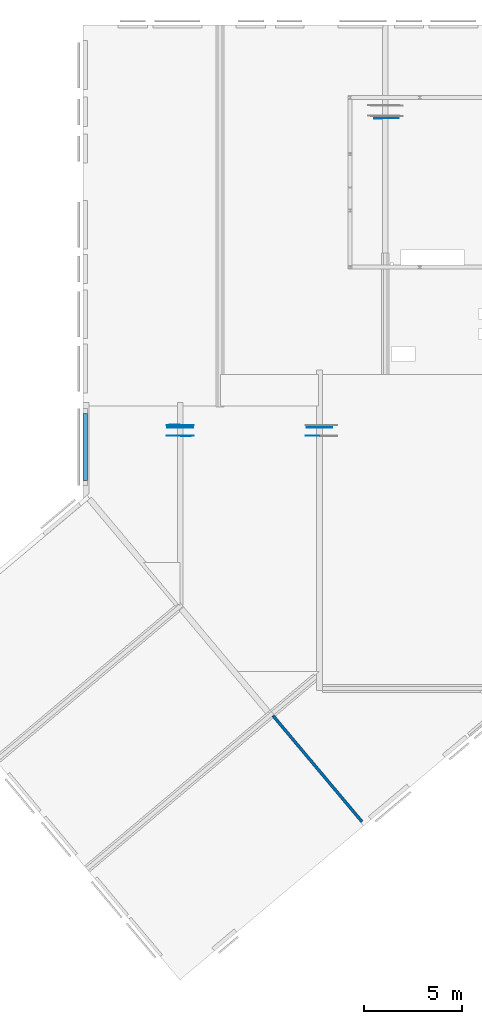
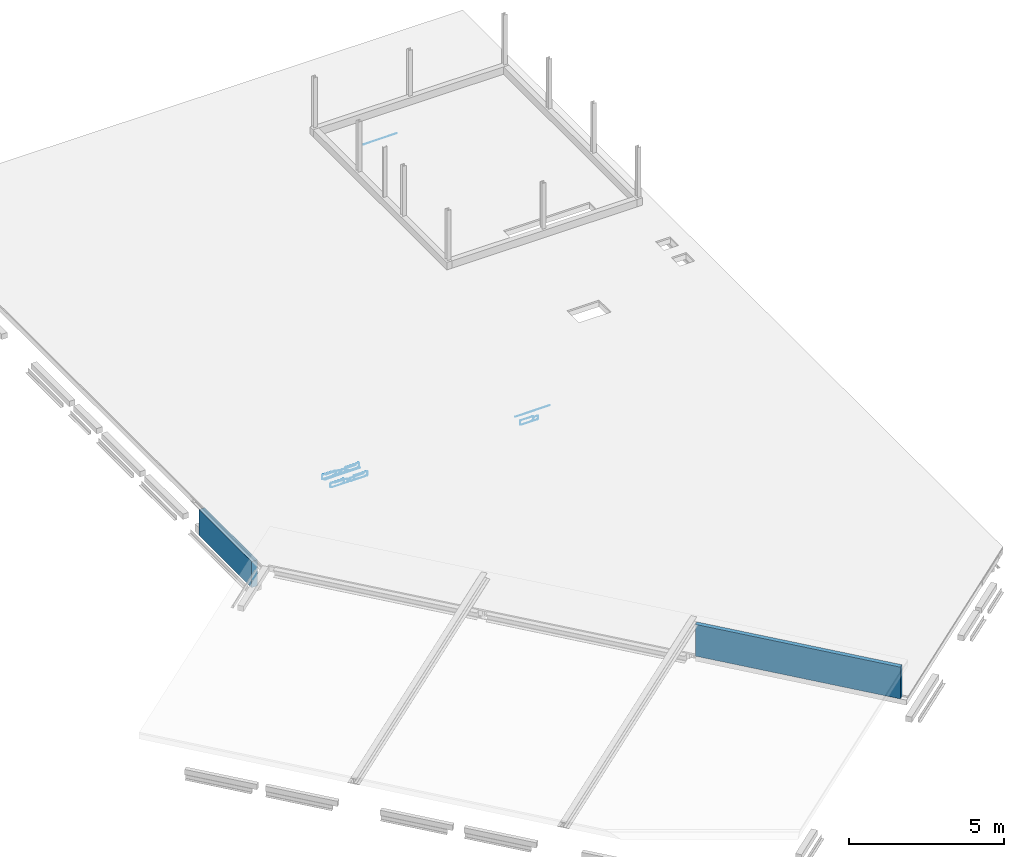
# One storey, part 7 of 9: 8 reinforcing bars, 2 walls.
"""IFC2X3 building model written with IfcOpenShell, lengths in millimetres."""

from ifc_helpers import new_model, entity, si_unit, converted_unit, derived_unit, direction, frame, frame_2d, origin, place, context, subcontext, project, spatial, rectangle, extrude, material, layer, layer_set, layer_usage, type_object, element, save


model = new_model("IFC2X3")

# Units and contexts
model_context = context("Model", 3, precision=0.01, world=origin(), true_north=direction((6.12303176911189e-17, 1.0)))
body_context = subcontext(model_context, "Body", "Model", "MODEL_VIEW")
ifc_project = project(units=[si_unit("LENGTHUNIT", "METRE", prefix="MILLI"), si_unit("AREAUNIT", "SQUARE_METRE"), si_unit("VOLUMEUNIT", "CUBIC_METRE"), converted_unit("PLANEANGLEUNIT", "DEGREE", entity("IfcRatioMeasure", 0.0174532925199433), si_unit("PLANEANGLEUNIT", "RADIAN"), dimensions=[0, 0, 0, 0, 0, 0, 0]), si_unit("MASSUNIT", "GRAM", prefix="KILO"), derived_unit("MASSDENSITYUNIT", [(si_unit("MASSUNIT", "GRAM", prefix="KILO"), 1), (si_unit("LENGTHUNIT", "METRE"), -3)]), derived_unit("MOMENTOFINERTIAUNIT", [(si_unit("LENGTHUNIT", "METRE"), 4)]), si_unit("TIMEUNIT", "SECOND"), si_unit("FREQUENCYUNIT", "HERTZ"), si_unit("THERMODYNAMICTEMPERATUREUNIT", "DEGREE_CELSIUS"), derived_unit("THERMALTRANSMITTANCEUNIT", [(si_unit("MASSUNIT", "GRAM", prefix="KILO"), 1), (si_unit("THERMODYNAMICTEMPERATUREUNIT", "KELVIN"), -1), (si_unit("TIMEUNIT", "SECOND"), -3)]), derived_unit("VOLUMETRICFLOWRATEUNIT", [(si_unit("LENGTHUNIT", "METRE"), 3), (si_unit("TIMEUNIT", "SECOND"), -1)]), si_unit("ELECTRICCURRENTUNIT", "AMPERE"), si_unit("ELECTRICVOLTAGEUNIT", "VOLT"), si_unit("POWERUNIT", "WATT"), si_unit("FORCEUNIT", "NEWTON", prefix="KILO"), si_unit("ILLUMINANCEUNIT", "LUX"), si_unit("LUMINOUSFLUXUNIT", "LUMEN"), si_unit("LUMINOUSINTENSITYUNIT", "CANDELA"), derived_unit("USERDEFINED", [(si_unit("MASSUNIT", "GRAM", prefix="KILO"), -1), (si_unit("LENGTHUNIT", "METRE"), -2), (si_unit("TIMEUNIT", "SECOND"), 3), (si_unit("LUMINOUSFLUXUNIT", "LUMEN"), 1)]), derived_unit("LINEARVELOCITYUNIT", [(si_unit("LENGTHUNIT", "METRE"), 1), (si_unit("TIMEUNIT", "SECOND"), -1)]), si_unit("PRESSUREUNIT", "PASCAL"), derived_unit("USERDEFINED", [(si_unit("LENGTHUNIT", "METRE"), -2), (si_unit("MASSUNIT", "GRAM", prefix="KILO"), 1), (si_unit("TIMEUNIT", "SECOND"), -2)]), derived_unit("LINEARFORCEUNIT", [(si_unit("MASSUNIT", "GRAM", prefix="KILO"), 1), (si_unit("LENGTHUNIT", "METRE"), 1), (si_unit("TIMEUNIT", "SECOND"), -2), (si_unit("LENGTHUNIT", "METRE"), -1)]), derived_unit("PLANARFORCEUNIT", [(si_unit("MASSUNIT", "GRAM", prefix="KILO"), 1), (si_unit("LENGTHUNIT", "METRE"), 1), (si_unit("TIMEUNIT", "SECOND"), -2), (si_unit("LENGTHUNIT", "METRE"), -2)])], contexts=[model_context])

# Site, building, storey
site_placement = place(None, origin())
site = spatial("IfcSite", under=ifc_project, at=site_placement, Name="Default", CompositionType="ELEMENT")
building_placement = place(site_placement, origin())
building = spatial("IfcBuilding", under=site, at=building_placement, CompositionType="ELEMENT")
storey_placement = place(building_placement, frame((0.0, 0.0, 7000.0)))
storey = spatial("IfcBuildingStorey", under=building, at=storey_placement, Name="02 tweede verdieping", CompositionType="ELEMENT", Elevation=7000.00000000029)

# Walls
ifc_material = material(Name="f1_kalkzandsteen")
ifc_layer_1 = layer(ifc_material, 214.0)
ifc_layer_set_1 = layer_set([ifc_layer_1], Name="Basic Wall:BERSnl_22_WA_kalkzandsteen214")
ifc_layer_usage_1 = layer_usage(ifc_layer_set_1, "AXIS2", "NEGATIVE", 107.0)
wall_type_1 = type_object("IfcWallType", Name="Basic Wall:BERSnl_22_WA_kalkzandsteen214", PredefinedType="STANDARD", material=ifc_layer_set_1)
wall_1_placement = place(storey_placement, frame((13702.4349765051, 12331.2441702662, -190.0), z_axis=(0.0, 0.0, 1.0), x_axis=(0.0, 1.0, 0.0)))
element("IfcWallStandardCase", 1, at=wall_1_placement, inside=storey, type_object=wall_type_1, material=ifc_layer_usage_1, Name="Basic Wall:BERSnl_22_WA_kalkzandsteen214", ObjectType="Basic Wall:BERSnl_22_WA_kalkzandsteen214", context=body_context, shape_type="SweptSolid", body=[
    extrude(rectangle(XDim=3400.0, YDim=213.999999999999, at=frame_2d((1700.0, 0.0), x_axis=(-1.0, 0.0))), origin(), (0.0, 0.0, 1.0), 1030.0),
])
ifc_layer_2 = layer(ifc_material, 150.0)
ifc_layer_set_2 = layer_set([ifc_layer_2], Name="Basic Wall:BERSnl_22_WA_kalkzandsteen150")
ifc_layer_usage_2 = layer_usage(ifc_layer_set_2, "AXIS2", "NEGATIVE", 75.0)
wall_type_2 = type_object("IfcWallType", Name="Basic Wall:BERSnl_22_WA_kalkzandsteen150", PredefinedType="STANDARD", material=ifc_layer_set_2)
wall_2_placement = place(storey_placement, frame((27784.5924056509, -5031.57264052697, 1040.0), z_axis=(0.0, 0.0, 1.0), x_axis=(-0.642787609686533, 0.766044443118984, 0.0)))
element("IfcWallStandardCase", 2, at=wall_2_placement, inside=storey, type_object=wall_type_2, material=ifc_layer_usage_2, Name="Basic Wall:BERSnl_22_WA_kalkzandsteen150", ObjectType="Basic Wall:BERSnl_22_WA_kalkzandsteen150", context=body_context, shape_type="SweptSolid", body=[
    extrude(rectangle(XDim=7045.01706476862, YDim=150.000000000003, at=frame_2d((3522.50853238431, 3.48165940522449e-13), x_axis=(-1.0, 0.0))), origin(), (0.0, 0.0, 1.0), 1250.00000000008),
])

# Reinforcing bars
reinforcing_bar_1_placement = place(storey_placement, origin())
element("IfcReinforcingBar", 3, at=reinforcing_bar_1_placement, inside=storey, Name="Rebar Bar:SR_ø10 1 : Shape 00 3: 1", ObjectType="Rebar Bar:SR_ø10 1", BarLength=1232.16967239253, BarRole="NOTDEFINED", CrossSectionArea=7.85398163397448e-05, NominalDiameter=10.0, context=body_context, shape_type="AdvancedSweptSolid", body=[
    entity("IfcSweptDiskSolid", entity("IfcCompositeCurve", [entity("IfcCompositeCurveSegment", "CONTINUOUS", True, entity("IfcPolyline", [entity("IfcCartesianPoint", [28411.793874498, 30747.2058326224, 933.499999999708]), entity("IfcCartesianPoint", [29643.9361749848, 30755.4188049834, 933.499999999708])]))], False), 5.0, None, 0.0, 1.0),
])
reinforcing_bar_2_placement = place(storey_placement, origin())
element("IfcReinforcingBar", 4, at=reinforcing_bar_2_placement, inside=storey, Name="Rebar Bar:SR_ø10 1 : Shape 00 3: 1", ObjectType="Rebar Bar:SR_ø10 1", BarLength=1293.86234116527, BarRole="NOTDEFINED", CrossSectionArea=7.85398163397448e-05, NominalDiameter=10.0, context=body_context, shape_type="AdvancedSweptSolid", body=[
    entity("IfcSweptDiskSolid", entity("IfcCompositeCurve", [entity("IfcCompositeCurveSegment", "CONTINUOUS", True, entity("IfcPolyline", [entity("IfcCartesianPoint", [24973.6296978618, 15019.6761004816, 933.499999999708]), entity("IfcCartesianPoint", [26267.4632966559, 15028.3002825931, 933.499999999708])]))], False), 5.0, None, 0.0, 1.0),
])
reinforcing_bar_3_placement = place(storey_placement, origin())
ifc_direction_1 = entity("IfcDirection", [0.0, -1.0, 0.0])
ifc_direction_2 = entity("IfcDirection", [1.0, 0.0, 0.0])
ifc_direction_3 = entity("IfcDirection", [0.0, 0.0, 1.0])
element("IfcReinforcingBar", 5, at=reinforcing_bar_3_placement, inside=storey, Name="Rebar Bar:SR_ø8 : Shape Rebar Shape 5: 2", ObjectType="Rebar Bar:SR_ø8", BarLength=1799.94583112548, BarRole="NOTDEFINED", CrossSectionArea=5.02654824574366e-05, NominalDiameter=8.0, context=body_context, shape_type="AdvancedSweptSolid", body=[
    entity("IfcSweptDiskSolid", entity("IfcCompositeCurve", [entity("IfcCompositeCurveSegment", "CONTINUOUS", True, entity("IfcPolyline", [entity("IfcCartesianPoint", [25321.5988803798, 14602.8628808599, 889.777519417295]), entity("IfcCartesianPoint", [25373.5988803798, 14602.8628808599, 889.777519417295])])), entity("IfcCompositeCurveSegment", "CONTINUOUS", True, entity("IfcTrimmedCurve", entity("IfcCircle", entity("IfcAxis2Placement3D", entity("IfcCartesianPoint", [25373.5988803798, 14602.8628808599, 933.777519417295]), ifc_direction_1, ifc_direction_2), 44.0), [entity("IfcParameterValue", 270.0)], [entity("IfcParameterValue", 360.0)], True, "PARAMETER")), entity("IfcCompositeCurveSegment", "CONTINUOUS", True, entity("IfcPolyline", [entity("IfcCartesianPoint", [25417.5988803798, 14602.8628808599, 933.777519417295]), entity("IfcCartesianPoint", [25417.5988803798, 14602.8628808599, 1013.12322859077])])), entity("IfcCompositeCurveSegment", "CONTINUOUS", True, entity("IfcTrimmedCurve", entity("IfcCircle", entity("IfcAxis2Placement3D", entity("IfcCartesianPoint", [25373.5988803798, 14602.8628808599, 1013.12322859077]), ifc_direction_1, ifc_direction_3), 44.0), [entity("IfcParameterValue", 270.0)], [entity("IfcParameterValue", 360.0)], True, "PARAMETER")), entity("IfcCompositeCurveSegment", "CONTINUOUS", True, entity("IfcPolyline", [entity("IfcCartesianPoint", [25373.5988803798, 14602.8628808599, 1057.12322859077]), entity("IfcCartesianPoint", [24964.7095946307, 14602.8628808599, 1057.12322859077])])), entity("IfcCompositeCurveSegment", "CONTINUOUS", True, entity("IfcTrimmedCurve", entity("IfcCircle", entity("IfcAxis2Placement3D", entity("IfcCartesianPoint", [24964.7095946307, 14602.8628808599, 1013.12322859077]), ifc_direction_1, entity("IfcDirection", [-1.0, 0.0, 0.0])), 44.0), [entity("IfcParameterValue", 270.0)], [entity("IfcParameterValue", 360.0)], True, "PARAMETER")), entity("IfcCompositeCurveSegment", "CONTINUOUS", True, entity("IfcPolyline", [entity("IfcCartesianPoint", [24920.7095946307, 14602.8628808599, 1013.12322859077]), entity("IfcCartesianPoint", [24920.7095946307, 14602.8628808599, 922.755201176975])])), entity("IfcCompositeCurveSegment", "CONTINUOUS", True, entity("IfcTrimmedCurve", entity("IfcCircle", entity("IfcAxis2Placement3D", entity("IfcCartesianPoint", [24964.7095946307, 14602.8628808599, 922.755201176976]), ifc_direction_1, entity("IfcDirection", [0.0, 0.0, -1.0])), 44.0), [entity("IfcParameterValue", 270.0)], [entity("IfcParameterValue", 360.0)], True, "PARAMETER")), entity("IfcCompositeCurveSegment", "CONTINUOUS", True, entity("IfcPolyline", [entity("IfcCartesianPoint", [24964.7095946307, 14602.8628808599, 878.755201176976]), entity("IfcCartesianPoint", [25551.3187459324, 14602.8628808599, 878.755201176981])])), entity("IfcCompositeCurveSegment", "CONTINUOUS", True, entity("IfcTrimmedCurve", entity("IfcCircle", entity("IfcAxis2Placement3D", entity("IfcCartesianPoint", [25551.3187459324, 14602.8628808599, 922.755201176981]), ifc_direction_1, ifc_direction_2), 44.0), [entity("IfcParameterValue", 270.0)], [entity("IfcParameterValue", 360.0)], True, "PARAMETER")), entity("IfcCompositeCurveSegment", "CONTINUOUS", True, entity("IfcPolyline", [entity("IfcCartesianPoint", [25595.3187459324, 14602.8628808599, 922.755201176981]), entity("IfcCartesianPoint", [25595.3187459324, 14602.8628808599, 977.148214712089])])), entity("IfcCompositeCurveSegment", "CONTINUOUS", True, entity("IfcTrimmedCurve", entity("IfcCircle", entity("IfcAxis2Placement3D", entity("IfcCartesianPoint", [25551.3187459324, 14602.8628808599, 977.148214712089]), ifc_direction_1, ifc_direction_3), 44.0), [entity("IfcParameterValue", 270.0)], [entity("IfcParameterValue", 360.0)], True, "PARAMETER")), entity("IfcCompositeCurveSegment", "CONTINUOUS", True, entity("IfcPolyline", [entity("IfcCartesianPoint", [25551.3187459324, 14602.8628808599, 1021.14821471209]), entity("IfcCartesianPoint", [25437.6683322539, 14602.8628808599, 1021.14821471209])]))], False), 4.0, None, 0.0, 547.0),
])
reinforcing_bar_4_placement = place(storey_placement, origin())
element("IfcReinforcingBar", 6, at=reinforcing_bar_4_placement, inside=storey, Name="Rebar Bar:SR_ø10 1 : Shape 00 3: 1", ObjectType="Rebar Bar:SR_ø10 1", BarLength=1323.13927925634, BarRole="NOTDEFINED", CrossSectionArea=7.85398163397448e-05, NominalDiameter=10.0, context=body_context, shape_type="AdvancedSweptSolid", body=[
    entity("IfcSweptDiskSolid", entity("IfcCompositeCurve", [entity("IfcCompositeCurveSegment", "CONTINUOUS", True, entity("IfcPolyline", [entity("IfcCartesianPoint", [17880.6435721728, 15019.5607523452, 939.499999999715]), entity("IfcCartesianPoint", [19203.7534586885, 15028.3800785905, 939.499999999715])]))], False), 5.0, None, 0.0, 1.0),
])
reinforcing_bar_5_placement = place(storey_placement, origin())
ifc_direction_4 = entity("IfcDirection", [0.0, 1.0, 0.0])
ifc_direction_5 = entity("IfcDirection", [-1.0, 0.0, 0.0])
element("IfcReinforcingBar", 7, at=reinforcing_bar_5_placement, inside=storey, Name="Rebar Bar:SR_ø8 : Shape Rebar Shape 5: 1", ObjectType="Rebar Bar:SR_ø8", BarLength=2145.07097404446, BarRole="NOTDEFINED", CrossSectionArea=5.02654824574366e-05, NominalDiameter=8.0, context=body_context, shape_type="AdvancedSweptSolid", body=[
    entity("IfcSweptDiskSolid", entity("IfcCompositeCurve", [entity("IfcCompositeCurveSegment", "CONTINUOUS", True, entity("IfcPolyline", [entity("IfcCartesianPoint", [18812.0051836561, 15141.6014686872, 901.203958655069]), entity("IfcCartesianPoint", [18760.0051836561, 15141.6014686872, 901.203958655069])])), entity("IfcCompositeCurveSegment", "CONTINUOUS", True, entity("IfcTrimmedCurve", entity("IfcCircle", entity("IfcAxis2Placement3D", entity("IfcCartesianPoint", [18760.0051836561, 15141.6014686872, 945.203958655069]), ifc_direction_4, ifc_direction_5), 44.0), [entity("IfcParameterValue", 270.0)], [entity("IfcParameterValue", 360.0)], True, "PARAMETER")), entity("IfcCompositeCurveSegment", "CONTINUOUS", True, entity("IfcPolyline", [entity("IfcCartesianPoint", [18716.0051836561, 15141.6014686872, 945.203958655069]), entity("IfcCartesianPoint", [18716.0051836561, 15141.6014686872, 1018.53360569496])])), entity("IfcCompositeCurveSegment", "CONTINUOUS", True, entity("IfcTrimmedCurve", entity("IfcCircle", entity("IfcAxis2Placement3D", entity("IfcCartesianPoint", [18760.0051836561, 15141.6014686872, 1018.53360569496]), ifc_direction_4, entity("IfcDirection", [0.0, 0.0, 1.0])), 44.0), [entity("IfcParameterValue", 270.0)], [entity("IfcParameterValue", 360.0)], True, "PARAMETER")), entity("IfcCompositeCurveSegment", "CONTINUOUS", True, entity("IfcPolyline", [entity("IfcCartesianPoint", [18760.0051836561, 15141.6014686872, 1062.53360569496]), entity("IfcCartesianPoint", [19186.0847129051, 15141.6014686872, 1062.53360569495])])), entity("IfcCompositeCurveSegment", "CONTINUOUS", True, entity("IfcTrimmedCurve", entity("IfcCircle", entity("IfcAxis2Placement3D", entity("IfcCartesianPoint", [19186.0847129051, 15141.6014686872, 1018.53360569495]), ifc_direction_4, entity("IfcDirection", [1.0, 0.0, 0.0])), 44.0), [entity("IfcParameterValue", 270.0)], [entity("IfcParameterValue", 360.0)], True, "PARAMETER")), entity("IfcCompositeCurveSegment", "CONTINUOUS", True, entity("IfcPolyline", [entity("IfcCartesianPoint", [19230.0847129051, 15141.6014686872, 1018.53360569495]), entity("IfcCartesianPoint", [19230.0847129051, 15141.6014686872, 931.735565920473])])), entity("IfcCompositeCurveSegment", "CONTINUOUS", True, entity("IfcTrimmedCurve", entity("IfcCircle", entity("IfcAxis2Placement3D", entity("IfcCartesianPoint", [19186.0847129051, 15141.6014686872, 931.735565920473]), ifc_direction_4, entity("IfcDirection", [0.0, 0.0, -1.0])), 44.0), [entity("IfcParameterValue", 270.0)], [entity("IfcParameterValue", 360.0)], True, "PARAMETER")), entity("IfcCompositeCurveSegment", "CONTINUOUS", True, entity("IfcPolyline", [entity("IfcCartesianPoint", [19186.0847129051, 15141.6014686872, 887.735565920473]), entity("IfcCartesianPoint", [18612.2446999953, 15141.6014686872, 887.735565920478])])), entity("IfcCompositeCurveSegment", "CONTINUOUS", True, entity("IfcTrimmedCurve", entity("IfcCircle", entity("IfcAxis2Placement3D", entity("IfcCartesianPoint", [18612.2446999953, 15138.978198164, 931.657296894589]), entity("IfcDirection", [0.0, 0.998221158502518, 0.0596197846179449]), ifc_direction_5), 44.0), [entity("IfcParameterValue", 270.0)], [entity("IfcParameterValue", 360.0)], True, "PARAMETER")), entity("IfcCompositeCurveSegment", "CONTINUOUS", True, entity("IfcPolyline", [entity("IfcCartesianPoint", [18568.2446999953, 15138.978198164, 931.657296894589]), entity("IfcCartesianPoint", [18568.2446999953, 15136.2247392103, 977.758788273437])])), entity("IfcCompositeCurveSegment", "CONTINUOUS", True, entity("IfcTrimmedCurve", entity("IfcCircle", entity("IfcAxis2Placement3D", entity("IfcCartesianPoint", [18612.2446999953, 15136.2247392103, 977.758788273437]), entity("IfcDirection", [0.0, 0.998221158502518, 0.0596197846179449]), entity("IfcDirection", [0.0, -0.0596197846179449, 0.998221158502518])), 44.0), [entity("IfcParameterValue", 270.0)], [entity("IfcParameterValue", 360.0)], True, "PARAMETER")), entity("IfcCompositeCurveSegment", "CONTINUOUS", True, entity("IfcPolyline", [entity("IfcCartesianPoint", [18612.2446999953, 15133.6014686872, 1021.68051924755]), entity("IfcCartesianPoint", [19084.6332614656, 15133.6014686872, 1021.68051924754])]))], False), 4.0, None, 0.0, 547.0),
])
reinforcing_bar_6_placement = place(storey_placement, origin())
ifc_direction_6 = entity("IfcDirection", [0.0, 1.0, 0.0])
ifc_direction_7 = entity("IfcDirection", [-1.0, 0.0, 0.0])
element("IfcReinforcingBar", 8, at=reinforcing_bar_6_placement, inside=storey, Name="Rebar Bar:SR_ø8 : Shape Rebar Shape 5: 2", ObjectType="Rebar Bar:SR_ø8", BarLength=2145.07097404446, BarRole="NOTDEFINED", CrossSectionArea=5.02654824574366e-05, NominalDiameter=8.0, context=body_context, shape_type="AdvancedSweptSolid", body=[
    entity("IfcSweptDiskSolid", entity("IfcCompositeCurve", [entity("IfcCompositeCurveSegment", "CONTINUOUS", True, entity("IfcPolyline", [entity("IfcCartesianPoint", [18812.0051836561, 14602.8628808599, 901.203958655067]), entity("IfcCartesianPoint", [18760.0051836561, 14602.8628808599, 901.203958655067])])), entity("IfcCompositeCurveSegment", "CONTINUOUS", True, entity("IfcTrimmedCurve", entity("IfcCircle", entity("IfcAxis2Placement3D", entity("IfcCartesianPoint", [18760.0051836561, 14602.8628808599, 945.203958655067]), ifc_direction_6, ifc_direction_7), 44.0), [entity("IfcParameterValue", 270.0)], [entity("IfcParameterValue", 360.0)], True, "PARAMETER")), entity("IfcCompositeCurveSegment", "CONTINUOUS", True, entity("IfcPolyline", [entity("IfcCartesianPoint", [18716.0051836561, 14602.8628808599, 945.203958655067]), entity("IfcCartesianPoint", [18716.0051836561, 14602.8628808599, 1018.53360569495])])), entity("IfcCompositeCurveSegment", "CONTINUOUS", True, entity("IfcTrimmedCurve", entity("IfcCircle", entity("IfcAxis2Placement3D", entity("IfcCartesianPoint", [18760.0051836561, 14602.8628808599, 1018.53360569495]), ifc_direction_6, entity("IfcDirection", [0.0, 0.0, 1.0])), 44.0), [entity("IfcParameterValue", 270.0)], [entity("IfcParameterValue", 360.0)], True, "PARAMETER")), entity("IfcCompositeCurveSegment", "CONTINUOUS", True, entity("IfcPolyline", [entity("IfcCartesianPoint", [18760.0051836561, 14602.8628808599, 1062.53360569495]), entity("IfcCartesianPoint", [19186.0847129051, 14602.8628808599, 1062.53360569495])])), entity("IfcCompositeCurveSegment", "CONTINUOUS", True, entity("IfcTrimmedCurve", entity("IfcCircle", entity("IfcAxis2Placement3D", entity("IfcCartesianPoint", [19186.0847129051, 14602.8628808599, 1018.53360569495]), ifc_direction_6, entity("IfcDirection", [1.0, 0.0, 0.0])), 44.0), [entity("IfcParameterValue", 270.0)], [entity("IfcParameterValue", 360.0)], True, "PARAMETER")), entity("IfcCompositeCurveSegment", "CONTINUOUS", True, entity("IfcPolyline", [entity("IfcCartesianPoint", [19230.0847129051, 14602.8628808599, 1018.53360569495]), entity("IfcCartesianPoint", [19230.0847129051, 14602.8628808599, 931.73556592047])])), entity("IfcCompositeCurveSegment", "CONTINUOUS", True, entity("IfcTrimmedCurve", entity("IfcCircle", entity("IfcAxis2Placement3D", entity("IfcCartesianPoint", [19186.0847129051, 14602.8628808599, 931.73556592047]), ifc_direction_6, entity("IfcDirection", [0.0, 0.0, -1.0])), 44.0), [entity("IfcParameterValue", 270.0)], [entity("IfcParameterValue", 360.0)], True, "PARAMETER")), entity("IfcCompositeCurveSegment", "CONTINUOUS", True, entity("IfcPolyline", [entity("IfcCartesianPoint", [19186.0847129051, 14602.8628808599, 887.735565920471]), entity("IfcCartesianPoint", [18612.2446999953, 14602.8628808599, 887.735565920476])])), entity("IfcCompositeCurveSegment", "CONTINUOUS", True, entity("IfcTrimmedCurve", entity("IfcCircle", entity("IfcAxis2Placement3D", entity("IfcCartesianPoint", [18612.2446999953, 14600.2396103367, 931.657296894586]), entity("IfcDirection", [0.0, 0.998221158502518, 0.0596197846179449]), ifc_direction_7), 44.0), [entity("IfcParameterValue", 270.0)], [entity("IfcParameterValue", 360.0)], True, "PARAMETER")), entity("IfcCompositeCurveSegment", "CONTINUOUS", True, entity("IfcPolyline", [entity("IfcCartesianPoint", [18568.2446999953, 14600.2396103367, 931.657296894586]), entity("IfcCartesianPoint", [18568.2446999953, 14597.4861513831, 977.758788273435])])), entity("IfcCompositeCurveSegment", "CONTINUOUS", True, entity("IfcTrimmedCurve", entity("IfcCircle", entity("IfcAxis2Placement3D", entity("IfcCartesianPoint", [18612.2446999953, 14597.4861513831, 977.758788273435]), entity("IfcDirection", [0.0, 0.998221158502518, 0.0596197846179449]), entity("IfcDirection", [0.0, -0.0596197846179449, 0.998221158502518])), 44.0), [entity("IfcParameterValue", 270.0)], [entity("IfcParameterValue", 360.0)], True, "PARAMETER")), entity("IfcCompositeCurveSegment", "CONTINUOUS", True, entity("IfcPolyline", [entity("IfcCartesianPoint", [18612.2446999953, 14594.8628808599, 1021.68051924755]), entity("IfcCartesianPoint", [19084.6332614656, 14594.8628808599, 1021.68051924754])]))], False), 4.0, None, 0.0, 547.0),
])
reinforcing_bar_7_placement = place(storey_placement, origin())
ifc_direction_8 = entity("IfcDirection", [0.0, -1.0, 0.0])
ifc_direction_9 = entity("IfcDirection", [1.0, 0.0, 0.0])
element("IfcReinforcingBar", 9, at=reinforcing_bar_7_placement, inside=storey, Name="Rebar Bar:SR_ø8 : Shape Rebar Shape 5: 1", ObjectType="Rebar Bar:SR_ø8", BarLength=2145.07097404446, BarRole="NOTDEFINED", CrossSectionArea=5.02654824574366e-05, NominalDiameter=8.0, context=body_context, shape_type="AdvancedSweptSolid", body=[
    entity("IfcSweptDiskSolid", entity("IfcCompositeCurve", [entity("IfcCompositeCurveSegment", "CONTINUOUS", True, entity("IfcPolyline", [entity("IfcCartesianPoint", [18267.502476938, 15141.6014686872, 901.20395865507]), entity("IfcCartesianPoint", [18319.502476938, 15141.6014686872, 901.20395865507])])), entity("IfcCompositeCurveSegment", "CONTINUOUS", True, entity("IfcTrimmedCurve", entity("IfcCircle", entity("IfcAxis2Placement3D", entity("IfcCartesianPoint", [18319.502476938, 15141.6014686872, 945.20395865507]), ifc_direction_8, ifc_direction_9), 44.0), [entity("IfcParameterValue", 270.0)], [entity("IfcParameterValue", 360.0)], True, "PARAMETER")), entity("IfcCompositeCurveSegment", "CONTINUOUS", True, entity("IfcPolyline", [entity("IfcCartesianPoint", [18363.502476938, 15141.6014686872, 945.20395865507]), entity("IfcCartesianPoint", [18363.502476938, 15141.6014686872, 1018.53360569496])])), entity("IfcCompositeCurveSegment", "CONTINUOUS", True, entity("IfcTrimmedCurve", entity("IfcCircle", entity("IfcAxis2Placement3D", entity("IfcCartesianPoint", [18319.502476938, 15141.6014686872, 1018.53360569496]), ifc_direction_8, entity("IfcDirection", [0.0, 0.0, 1.0])), 44.0), [entity("IfcParameterValue", 270.0)], [entity("IfcParameterValue", 360.0)], True, "PARAMETER")), entity("IfcCompositeCurveSegment", "CONTINUOUS", True, entity("IfcPolyline", [entity("IfcCartesianPoint", [18319.502476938, 15141.6014686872, 1062.53360569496]), entity("IfcCartesianPoint", [17893.4229476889, 15141.6014686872, 1062.53360569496])])), entity("IfcCompositeCurveSegment", "CONTINUOUS", True, entity("IfcTrimmedCurve", entity("IfcCircle", entity("IfcAxis2Placement3D", entity("IfcCartesianPoint", [17893.4229476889, 15141.6014686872, 1018.53360569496]), ifc_direction_8, entity("IfcDirection", [-1.0, 0.0, 0.0])), 44.0), [entity("IfcParameterValue", 270.0)], [entity("IfcParameterValue", 360.0)], True, "PARAMETER")), entity("IfcCompositeCurveSegment", "CONTINUOUS", True, entity("IfcPolyline", [entity("IfcCartesianPoint", [17849.4229476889, 15141.6014686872, 1018.53360569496]), entity("IfcCartesianPoint", [17849.4229476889, 15141.6014686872, 931.735565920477])])), entity("IfcCompositeCurveSegment", "CONTINUOUS", True, entity("IfcTrimmedCurve", entity("IfcCircle", entity("IfcAxis2Placement3D", entity("IfcCartesianPoint", [17893.4229476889, 15141.6014686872, 931.735565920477]), ifc_direction_8, entity("IfcDirection", [0.0, 0.0, -1.0])), 44.0), [entity("IfcParameterValue", 270.0)], [entity("IfcParameterValue", 360.0)], True, "PARAMETER")), entity("IfcCompositeCurveSegment", "CONTINUOUS", True, entity("IfcPolyline", [entity("IfcCartesianPoint", [17893.4229476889, 15141.6014686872, 887.735565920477]), entity("IfcCartesianPoint", [18467.2629605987, 15141.6014686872, 887.735565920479])])), entity("IfcCompositeCurveSegment", "CONTINUOUS", True, entity("IfcTrimmedCurve", entity("IfcCircle", entity("IfcAxis2Placement3D", entity("IfcCartesianPoint", [18467.2629605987, 15144.2247392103, 931.657296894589]), entity("IfcDirection", [0.0, -0.998221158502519, 0.0596197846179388]), ifc_direction_9), 44.0), [entity("IfcParameterValue", 270.0)], [entity("IfcParameterValue", 360.0)], True, "PARAMETER")), entity("IfcCompositeCurveSegment", "CONTINUOUS", True, entity("IfcPolyline", [entity("IfcCartesianPoint", [18511.2629605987, 15144.2247392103, 931.65729689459]), entity("IfcCartesianPoint", [18511.2629605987, 15146.978198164, 977.758788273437])])), entity("IfcCompositeCurveSegment", "CONTINUOUS", True, entity("IfcTrimmedCurve", entity("IfcCircle", entity("IfcAxis2Placement3D", entity("IfcCartesianPoint", [18467.2629605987, 15146.978198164, 977.758788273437]), entity("IfcDirection", [0.0, -0.998221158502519, 0.0596197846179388]), entity("IfcDirection", [0.0, 0.0596197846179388, 0.998221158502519])), 44.0), [entity("IfcParameterValue", 270.0)], [entity("IfcParameterValue", 360.0)], True, "PARAMETER")), entity("IfcCompositeCurveSegment", "CONTINUOUS", True, entity("IfcPolyline", [entity("IfcCartesianPoint", [18467.2629605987, 15149.6014686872, 1021.68051924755]), entity("IfcCartesianPoint", [17994.8743991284, 15149.6014686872, 1021.68051924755])]))], False), 4.0, None, 0.0, 547.0),
])
reinforcing_bar_8_placement = place(storey_placement, origin())
ifc_direction_10 = entity("IfcDirection", [0.0, -1.0, 0.0])
ifc_direction_11 = entity("IfcDirection", [1.0, 0.0, 0.0])
element("IfcReinforcingBar", 10, at=reinforcing_bar_8_placement, inside=storey, Name="Rebar Bar:SR_ø8 : Shape Rebar Shape 5: 2", ObjectType="Rebar Bar:SR_ø8", BarLength=2145.07097404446, BarRole="NOTDEFINED", CrossSectionArea=5.02654824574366e-05, NominalDiameter=8.0, context=body_context, shape_type="AdvancedSweptSolid", body=[
    entity("IfcSweptDiskSolid", entity("IfcCompositeCurve", [entity("IfcCompositeCurveSegment", "CONTINUOUS", True, entity("IfcPolyline", [entity("IfcCartesianPoint", [18267.502476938, 14602.8628808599, 901.203958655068]), entity("IfcCartesianPoint", [18319.502476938, 14602.8628808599, 901.203958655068])])), entity("IfcCompositeCurveSegment", "CONTINUOUS", True, entity("IfcTrimmedCurve", entity("IfcCircle", entity("IfcAxis2Placement3D", entity("IfcCartesianPoint", [18319.502476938, 14602.8628808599, 945.203958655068]), ifc_direction_10, ifc_direction_11), 44.0), [entity("IfcParameterValue", 270.0)], [entity("IfcParameterValue", 360.0)], True, "PARAMETER")), entity("IfcCompositeCurveSegment", "CONTINUOUS", True, entity("IfcPolyline", [entity("IfcCartesianPoint", [18363.502476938, 14602.8628808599, 945.203958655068]), entity("IfcCartesianPoint", [18363.502476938, 14602.8628808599, 1018.53360569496])])), entity("IfcCompositeCurveSegment", "CONTINUOUS", True, entity("IfcTrimmedCurve", entity("IfcCircle", entity("IfcAxis2Placement3D", entity("IfcCartesianPoint", [18319.502476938, 14602.8628808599, 1018.53360569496]), ifc_direction_10, entity("IfcDirection", [0.0, 0.0, 1.0])), 44.0), [entity("IfcParameterValue", 270.0)], [entity("IfcParameterValue", 360.0)], True, "PARAMETER")), entity("IfcCompositeCurveSegment", "CONTINUOUS", True, entity("IfcPolyline", [entity("IfcCartesianPoint", [18319.502476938, 14602.8628808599, 1062.53360569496]), entity("IfcCartesianPoint", [17893.4229476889, 14602.8628808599, 1062.53360569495])])), entity("IfcCompositeCurveSegment", "CONTINUOUS", True, entity("IfcTrimmedCurve", entity("IfcCircle", entity("IfcAxis2Placement3D", entity("IfcCartesianPoint", [17893.4229476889, 14602.8628808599, 1018.53360569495]), ifc_direction_10, entity("IfcDirection", [-1.0, 0.0, 0.0])), 44.0), [entity("IfcParameterValue", 270.0)], [entity("IfcParameterValue", 360.0)], True, "PARAMETER")), entity("IfcCompositeCurveSegment", "CONTINUOUS", True, entity("IfcPolyline", [entity("IfcCartesianPoint", [17849.4229476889, 14602.8628808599, 1018.53360569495]), entity("IfcCartesianPoint", [17849.4229476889, 14602.8628808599, 931.735565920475])])), entity("IfcCompositeCurveSegment", "CONTINUOUS", True, entity("IfcTrimmedCurve", entity("IfcCircle", entity("IfcAxis2Placement3D", entity("IfcCartesianPoint", [17893.4229476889, 14602.8628808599, 931.735565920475]), ifc_direction_10, entity("IfcDirection", [0.0, 0.0, -1.0])), 44.0), [entity("IfcParameterValue", 270.0)], [entity("IfcParameterValue", 360.0)], True, "PARAMETER")), entity("IfcCompositeCurveSegment", "CONTINUOUS", True, entity("IfcPolyline", [entity("IfcCartesianPoint", [17893.4229476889, 14602.8628808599, 887.735565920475]), entity("IfcCartesianPoint", [18467.2629605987, 14602.8628808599, 887.735565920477])])), entity("IfcCompositeCurveSegment", "CONTINUOUS", True, entity("IfcTrimmedCurve", entity("IfcCircle", entity("IfcAxis2Placement3D", entity("IfcCartesianPoint", [18467.2629605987, 14605.4861513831, 931.657296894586]), entity("IfcDirection", [0.0, -0.998221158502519, 0.0596197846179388]), ifc_direction_11), 44.0), [entity("IfcParameterValue", 270.0)], [entity("IfcParameterValue", 360.0)], True, "PARAMETER")), entity("IfcCompositeCurveSegment", "CONTINUOUS", True, entity("IfcPolyline", [entity("IfcCartesianPoint", [18511.2629605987, 14605.4861513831, 931.657296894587]), entity("IfcCartesianPoint", [18511.2629605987, 14608.2396103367, 977.758788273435])])), entity("IfcCompositeCurveSegment", "CONTINUOUS", True, entity("IfcTrimmedCurve", entity("IfcCircle", entity("IfcAxis2Placement3D", entity("IfcCartesianPoint", [18467.2629605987, 14608.2396103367, 977.758788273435]), entity("IfcDirection", [0.0, -0.998221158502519, 0.0596197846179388]), entity("IfcDirection", [0.0, 0.0596197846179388, 0.998221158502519])), 44.0), [entity("IfcParameterValue", 270.0)], [entity("IfcParameterValue", 360.0)], True, "PARAMETER")), entity("IfcCompositeCurveSegment", "CONTINUOUS", True, entity("IfcPolyline", [entity("IfcCartesianPoint", [18467.2629605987, 14610.8628808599, 1021.68051924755]), entity("IfcCartesianPoint", [17994.8743991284, 14610.8628808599, 1021.68051924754])]))], False), 4.0, None, 0.0, 547.0),
])

save(model, "model.ifc")
